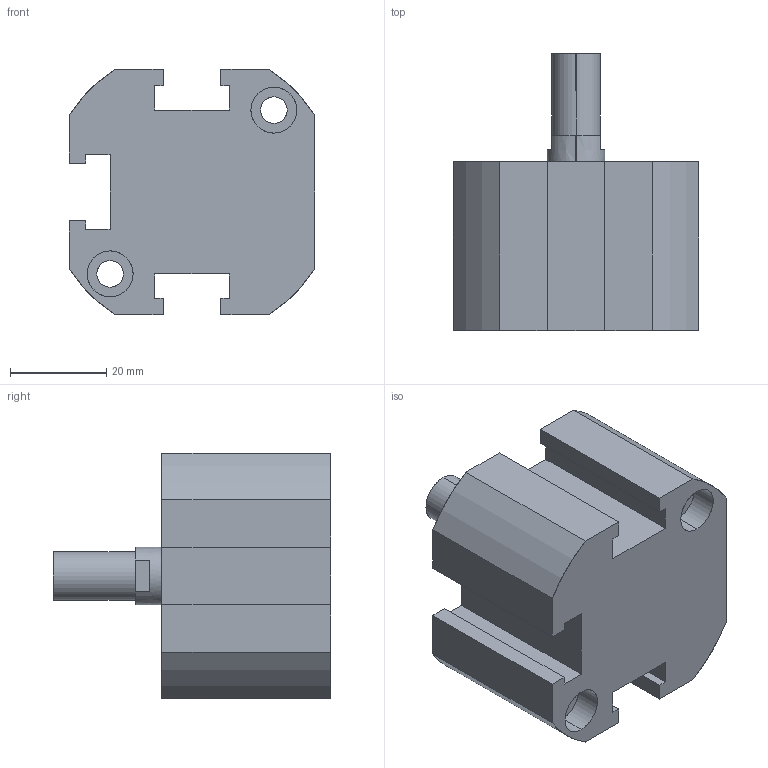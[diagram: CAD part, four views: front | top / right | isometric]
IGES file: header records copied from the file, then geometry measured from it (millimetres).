
Start section: SolidWorks IGES file using analytic representation for surfaces
Global section: file name: C:\Users\Toshiba\Desktop\XC#M1-32-10.IGS; native system: SolidWorks 2014; preprocessor: SolidWorks 2014; author: Toshiba; date: 160523.163856; units: millimetre
Bounding box: 51 x 57.5 x 51 mm (x, y, z)
Surface area: 15851.1 mm2 (no closed solid volume)
Topology: 0 solids, 0 shells, 91 faces, 1412 edges, 1410 vertices
Faces by surface type: bspline 47, revolution 44
